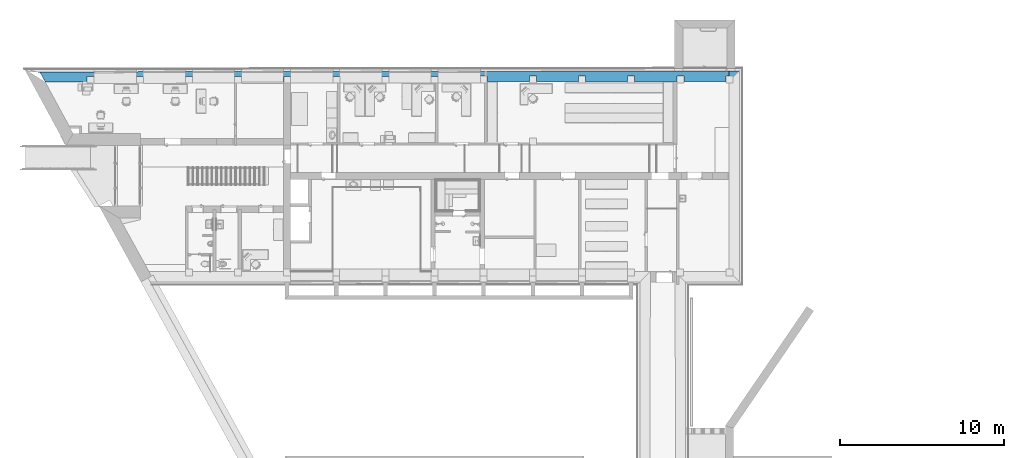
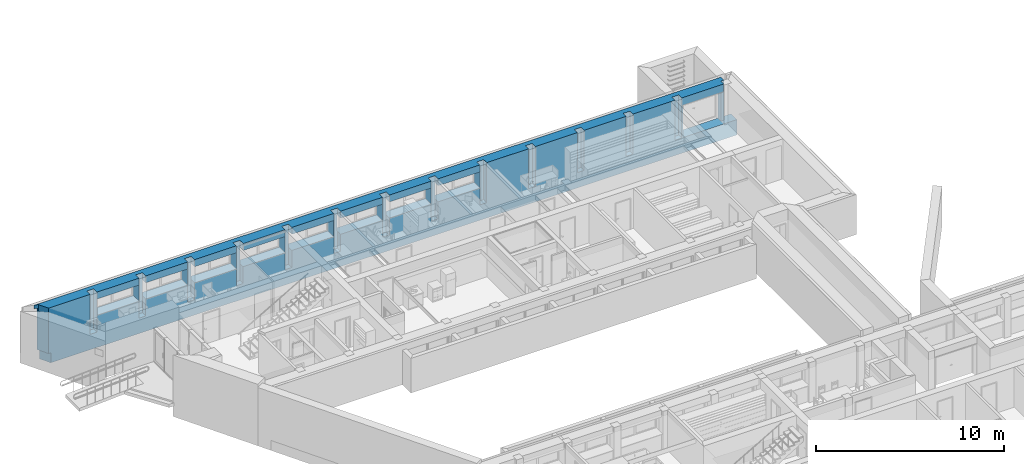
# One storey, part 64 of 127: 1 building element part, 9 openings, 1 element without a shape of its own.
"""IFC2X3 building model written with IfcOpenShell, lengths in millimetres."""

import ifcopenshell
import ifcopenshell.guid

model = None  # the IFC model being written
_history = None  # IfcOwnerHistory: only IFC2X3 demands one
_inside = {}  # id of a spatial element -> (the spatial element, [elements in it])
_under = {}  # id of a project, library or spatial element -> (it, [spatial elements below it])
_declared = {}  # id of a project -> (the project, [libraries it declares])
_typed = {}  # id of a type object -> (the type object, [elements of that type])
_made_of = {}  # id of a material, layer set ... -> (it, [elements and type objects made of it])


def new_model(schema):
    """Start an empty IFC model of exactly this schema.

    Asked for "IFC4X3", IfcOpenShell would pick the latest addendum, in which some entities
    have other attributes; the version numbers below select the first issue.
    IFC2X3 requires an IfcOwnerHistory on every rooted entity: one is made here for all.
    """
    global model, _history
    if schema == "IFC4X3":
        model = ifcopenshell.file(schema_version=(4, 3, 0, 0))
    else:
        model = ifcopenshell.file(schema=schema)
    _inside.clear()
    _under.clear()
    _declared.clear()
    _typed.clear()
    _made_of.clear()
    _history = None
    if model.schema == "IFC2X3":
        org = make("IfcOrganization", Name="unknown")
        user = make(
            "IfcPersonAndOrganization",
            ThePerson=make("IfcPerson", FamilyName="unknown"),
            TheOrganization=org,
        )
        app = make(
            "IfcApplication",
            ApplicationDeveloper=org,
            Version="unknown",
            ApplicationFullName="unknown",
            ApplicationIdentifier="unknown",
        )
        _history = make(
            "IfcOwnerHistory",
            OwningUser=user,
            OwningApplication=app,
            ChangeAction="ADDED",
            CreationDate=0,
        )
    return model


def make(cls, **values):
    """One entity of the class cls with the attributes given. An attribute that is None is left unset."""
    return model.create_entity(
        cls, **{name: value for name, value in values.items() if value is not None}
    )


def entity(cls, *values):
    """Any entity or typed value of the class cls, its attributes in the order of the schema. None: left unset."""
    e = model.create_entity(cls)
    for i, value in enumerate(values):
        if value is not None:
            e[i] = value
    return e


def rooted(cls, **values):
    """An entity with a GlobalId (a new one), such as an element, a storey or a relation."""
    return make(cls, GlobalId=ifcopenshell.guid.new(), OwnerHistory=_history, **values)


def si_unit(unit_type, name, prefix=None):
    """IfcSIUnit, for example si_unit("LENGTHUNIT", "METRE", prefix="MILLI")."""
    return make("IfcSIUnit", UnitType=unit_type, Prefix=prefix, Name=name)


def converted_unit(unit_type, name, factor, base, dimensions=None, offset=None):
    """IfcConversionBasedUnit, such as the inch: factor (a typed value) times the base unit."""
    return make(
        "IfcConversionBasedUnit"
        if offset is None
        else "IfcConversionBasedUnitWithOffset",
        ConversionOffset=offset,
        Dimensions=None
        if dimensions is None
        else entity("IfcDimensionalExponents", *dimensions),
        UnitType=unit_type,
        Name=name,
        ConversionFactor=make(
            "IfcMeasureWithUnit", ValueComponent=factor, UnitComponent=base
        ),
    )


def derived_unit(unit_type, elements):
    """IfcDerivedUnit: a product of units, each with its exponent."""
    return make(
        "IfcDerivedUnit",
        Elements=[
            make("IfcDerivedUnitElement", Unit=unit, Exponent=power)
            for unit, power in elements
        ],
        UnitType=unit_type,
    )


def money_unit(currency):
    """IfcMonetaryUnit."""
    return make("IfcMonetaryUnit", Currency=currency)


def assignment(units):
    """IfcUnitAssignment: the units of a project."""
    return None if units is None else make("IfcUnitAssignment", Units=units)


def point(xyz):
    """IfcCartesianPoint."""
    return None if xyz is None else make("IfcCartesianPoint", Coordinates=xyz)


def direction(xyz):
    """IfcDirection."""
    return None if xyz is None else make("IfcDirection", DirectionRatios=xyz)


def frame(location, z_axis=None, x_axis=None):
    """IfcAxis2Placement3D, a coordinate frame: its origin and axes. An axis left out is left unset."""
    return make(
        "IfcAxis2Placement3D",
        Location=point(location),
        Axis=direction(z_axis),
        RefDirection=direction(x_axis),
    )


def frame_2d(location, x_axis=None):
    """IfcAxis2Placement2D, a coordinate frame in the plane: its origin and x axis."""
    return make(
        "IfcAxis2Placement2D", Location=point(location), RefDirection=direction(x_axis)
    )


def origin_with_axes():
    """The frame at (0, 0, 0) with the z axis (0, 0, 1) and the x axis (1, 0, 0) written out."""
    return frame((0.0, 0.0, 0.0), z_axis=(0.0, 0.0, 1.0), x_axis=(1.0, 0.0, 0.0))


def origin_2d_with_axis():
    """The frame at (0, 0) in the plane with the x axis (1, 0) written out."""
    return frame_2d((0.0, 0.0), x_axis=(1.0, 0.0))


def place(relative_to, where):
    """IfcLocalPlacement: puts the frame where relative to a parent placement (None: the world)."""
    return make(
        "IfcLocalPlacement", PlacementRelTo=relative_to, RelativePlacement=where
    )


def context(
    kind, dimensions, precision=None, world=None, true_north=None, identifier=None
):
    """IfcGeometricRepresentationContext, for example the 3D "Model" context."""
    return make(
        "IfcGeometricRepresentationContext",
        ContextIdentifier=identifier,
        ContextType=kind,
        CoordinateSpaceDimension=dimensions,
        Precision=precision,
        WorldCoordinateSystem=world,
        TrueNorth=true_north,
    )


def subcontext(parent, identifier, kind, view, scale=None):
    """IfcGeometricRepresentationSubContext, for example "Body" below "Model"."""
    return make(
        "IfcGeometricRepresentationSubContext",
        ContextIdentifier=identifier,
        ContextType=kind,
        ParentContext=parent,
        TargetScale=scale,
        TargetView=view,
    )


def project(units=None, contexts=None):
    """IfcProject with its units and contexts."""
    return rooted(
        "IfcProject",
        Name="project",
        RepresentationContexts=contexts,
        UnitsInContext=assignment(units),
    )


def spatial(cls, under=None, at=None, **own):
    """A site, building, storey or space (cls), placed at a placement, below another one or the project."""
    s = rooted(cls, ObjectPlacement=at, **own)
    if under is not None:
        _under.setdefault(under.id(), (under, []))[1].append(s)
    return s


def polyline(points):
    """IfcPolyline through the points."""
    return make("IfcPolyline", Points=[point(p) for p in points])


def profile(cls, at=None, kind="AREA", **sizes):
    """A parametric profile (cls). Its sizes go by their IFC names, for example OverallWidth=200.0."""
    return make(cls, ProfileType=kind, Position=at, **sizes)


def rectangle(**sizes):
    """IfcRectangleProfileDef."""
    return profile("IfcRectangleProfileDef", **sizes)


def outline(outer, holes=None, kind="AREA"):
    """IfcArbitraryClosedProfileDef: a profile drawn as a closed curve; with holes, ...WithVoids."""
    if holes is None:
        return make("IfcArbitraryClosedProfileDef", ProfileType=kind, OuterCurve=outer)
    return make(
        "IfcArbitraryProfileDefWithVoids",
        ProfileType=kind,
        OuterCurve=outer,
        InnerCurves=holes,
    )


def extrude(swept, where, along, depth):
    """IfcExtrudedAreaSolid: the profile swept, set in the frame where, extruded along a direction by depth."""
    return make(
        "IfcExtrudedAreaSolid",
        SweptArea=swept,
        Position=where,
        ExtrudedDirection=direction(along),
        Depth=depth,
    )


def boolean(op, a, b):
    """IfcBooleanResult of two solids."""
    return make("IfcBooleanResult", Operator=op, FirstOperand=a, SecondOperand=b)


def faces_of(points, faces, orient=None, outer=None):
    """IfcFace entities. A face is a list of loops; a loop is a list of indices into points, from 0.

    orient and outer hold one flag for each loop. By default every Orientation is true, the
    first loop of a face is its IfcFaceOuterBound and the others are IfcFaceBound.
    """
    made = []
    for i, loops in enumerate(faces):
        bounds = []
        for j, loop in enumerate(loops):
            is_outer = j == 0 if outer is None else outer[i][j]
            bounds.append(
                make(
                    "IfcFaceOuterBound" if is_outer else "IfcFaceBound",
                    Bound=make("IfcPolyLoop", Polygon=[points[k] for k in loop]),
                    Orientation=True if orient is None else orient[i][j],
                )
            )
        made.append(make("IfcFace", Bounds=bounds))
    return made


def faceted_brep(points, faces, orient=None, outer=None, voids=None):
    """IfcFacetedBrep: a solid bounded by flat faces; with voids (closed shells), ...WithVoids."""
    shared = [point(p) for p in points]
    hull = make("IfcClosedShell", CfsFaces=faces_of(shared, faces, orient, outer))
    if voids is None:
        return make("IfcFacetedBrep", Outer=hull)
    return make(
        "IfcFacetedBrepWithVoids",
        Outer=hull,
        Voids=[
            make(cls, CfsFaces=faces_of(shared, fs, o, b)) for cls, fs, o, b in voids
        ],
    )


def shape(context_of_items, identifier, shape_type, items):
    """IfcShapeRepresentation: the items that make up one representation, for example the "Body"."""
    return make(
        "IfcShapeRepresentation",
        ContextOfItems=context_of_items,
        RepresentationIdentifier=identifier,
        RepresentationType=shape_type,
        Items=items,
    )


def material(Name=None, Category=None):
    """IfcMaterial."""
    return make("IfcMaterial", Name=Name, Category=Category)


def made_of(thing, what):
    """Note that an element or type object is made of a material, layer set ...; save() writes the relation."""
    if what is not None:
        _made_of.setdefault(what.id(), (what, []))[1].append(thing)
    return thing


def type_object(cls, material=None, **own):
    """A type object (cls), such as IfcWallType, which elements share."""
    return made_of(rooted(cls, **own), material)


def element(
    cls,
    number,
    at=None,
    inside=None,
    cuts=None,
    type_object=None,
    material=None,
    context=None,
    identifier="Body",
    shape_type=None,
    held_by="IfcProductDefinitionShape",
    body=None,
    shapes=None,
    **own,
):
    """One element of the class cls, such as IfcWall. Its Tag is "e" and its number.

    at: its placement. inside: the storey or other place that contains it. cuts: it is an
    opening in that element (IfcRelVoidsElement). A single representation is given by context,
    identifier, shape_type and body (its items); several are given by shapes. held_by: the class
    of the entity that holds the representations. save() writes the other relations.
    """
    e = rooted(cls, Tag="e%d" % number, ObjectPlacement=at, **own)
    if body is not None:
        shapes = [shape(context, identifier, shape_type, body)]
    if shapes is not None:
        e.Representation = make(held_by, Representations=shapes)
    if inside is not None:
        _inside.setdefault(inside.id(), (inside, []))[1].append(e)
    if cuts is not None:
        rooted(
            "IfcRelVoidsElement", RelatingBuildingElement=cuts, RelatedOpeningElement=e
        )
    if type_object is not None:
        _typed.setdefault(type_object.id(), (type_object, []))[1].append(e)
    return made_of(e, material)


def aggregate(whole, parts):
    """IfcRelAggregates: a whole, such as a stair, and the parts it consists of."""
    return rooted("IfcRelAggregates", RelatingObject=whole, RelatedObjects=parts)


def save(model, path):
    """Write the relations noted so far, then the file.

    IfcRelAggregates (storeys below a building ...), IfcRelContainedInSpatialStructure (elements
    in a storey), IfcRelDefinesByType, IfcRelAssociatesMaterial and IfcRelDeclares: one each for
    every whole, place, type object, material and project.
    """
    for whole, parts in _under.values():
        aggregate(whole, parts)
    for where, things in _inside.values():
        rooted(
            "IfcRelContainedInSpatialStructure",
            RelatedElements=things,
            RelatingStructure=where,
        )
    for kind, things in _typed.values():
        rooted("IfcRelDefinesByType", RelatedObjects=things, RelatingType=kind)
    for what, things in _made_of.values():
        rooted("IfcRelAssociatesMaterial", RelatedObjects=things, RelatingMaterial=what)
    for by, libraries in _declared.values():
        rooted("IfcRelDeclares", RelatingContext=by, RelatedDefinitions=libraries)
    model.write(path)


model = new_model("IFC2X3")

# Units and contexts
model_context = context("Model", 3, precision=1e-05, world=origin_with_axes(), true_north=direction((0.0, 1.0)))
body_context = subcontext(model_context, "Body", "Model", "MODEL_VIEW")
ifc_project = project(units=[si_unit("LENGTHUNIT", "METRE", prefix="MILLI"), si_unit("AREAUNIT", "SQUARE_METRE"), si_unit("VOLUMEUNIT", "CUBIC_METRE"), converted_unit("PLANEANGLEUNIT", "DEGREE", entity("IfcPlaneAngleMeasure", 0.0174532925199), si_unit("PLANEANGLEUNIT", "RADIAN"), dimensions=[0, 0, 0, 0, 0, 0, 0]), si_unit("SOLIDANGLEUNIT", "STERADIAN"), money_unit("EUR"), converted_unit("TIMEUNIT", "Year", entity("IfcTimeMeasure", 31556926.0), si_unit("TIMEUNIT", "SECOND"), dimensions=[0, 0, 1, 0, 0, 0, 0]), si_unit("MASSUNIT", "GRAM", prefix="KILO"), si_unit("THERMODYNAMICTEMPERATUREUNIT", "DEGREE_CELSIUS"), si_unit("LUMINOUSINTENSITYUNIT", "LUMEN"), si_unit("ENERGYUNIT", "JOULE", prefix="MEGA"), derived_unit("THERMALCONDUCTANCEUNIT", [(si_unit("POWERUNIT", "WATT"), 1), (si_unit("LENGTHUNIT", "METRE"), -1), (si_unit("THERMODYNAMICTEMPERATUREUNIT", "KELVIN"), -1)]), derived_unit("SPECIFICHEATCAPACITYUNIT", [(si_unit("ENERGYUNIT", "JOULE"), 1), (si_unit("MASSUNIT", "GRAM", prefix="KILO"), -1), (si_unit("THERMODYNAMICTEMPERATUREUNIT", "KELVIN"), -1)]), derived_unit("MASSDENSITYUNIT", [(si_unit("MASSUNIT", "GRAM", prefix="KILO"), 1), (si_unit("VOLUMEUNIT", "CUBIC_METRE"), -1)])], contexts=[model_context])

# Site, building, storey
site_placement = place(None, origin_with_axes())
site = spatial("IfcSite", under=ifc_project, at=site_placement, Name="Site", CompositionType="ELEMENT")
building_placement = place(site_placement, origin_with_axes())
building = spatial("IfcBuilding", under=site, at=building_placement, Name="Building", CompositionType="ELEMENT")
storey_placement = place(building_placement, origin_with_axes())
storey = spatial("IfcBuildingStorey", under=building, at=storey_placement, Name="1 KORRUS", CompositionType="ELEMENT", Elevation=0.0)

# Wall, openings, building element part
wall_type = type_object("IfcWallType", Name="VS-2", PredefinedType="NOTDEFINED")
wall_placement = place(storey_placement, frame((-0.195999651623, 71777.5659328, -1000.0), z_axis=(0.0, 0.0, 1.0), x_axis=(0.999999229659, 0.00124124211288, 0.0)))
wall = element("IfcWall", 1, at=wall_placement, inside=storey, type_object=wall_type, Name="VS2 paekivi")
opening_1_placement = place(wall_placement, frame((5451.44506851, 0.0, 2100.0), z_axis=(0.0, 0.0, 1.0), x_axis=(1.0, 0.0, 0.0)))
element("IfcOpeningElement", 2, at=opening_1_placement, cuts=wall, Name="välisaken * Double Window 22", context=body_context, shape_type="SweptSolid", body=[
    extrude(rectangle(XDim=2580.0, YDim=1050.0, at=origin_2d_with_axis()), frame((0.0, 10.0000000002, 525.0), z_axis=(0.0, 1.0, 0.0), x_axis=(1.0, 0.0, 0.0)), (0.0, 0.0, -1.0), 1460.0),
    extrude(rectangle(XDim=2580.0, YDim=1050.0, at=origin_2d_with_axis()), frame((0.0, 9.99999999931, 525.0), z_axis=(0.0, -1.0, 0.0), x_axis=(1.0, 0.0, 0.0)), (0.0, 0.0, -1.0), 1000.0),
])
opening_2_placement = place(wall_placement, frame((8451.2826352, 0.0, 2100.0), z_axis=(0.0, 0.0, 1.0), x_axis=(1.0, 0.0, 0.0)))
element("IfcOpeningElement", 3, at=opening_2_placement, cuts=wall, Name="välisaken * Double Window 22", context=body_context, shape_type="SweptSolid", body=[
    extrude(rectangle(XDim=2580.0, YDim=1050.0, at=origin_2d_with_axis()), frame((0.0, 10.0000000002, 525.0), z_axis=(0.0, 1.0, 0.0), x_axis=(1.0, 0.0, 0.0)), (0.0, 0.0, -1.0), 1460.0),
    extrude(rectangle(XDim=2580.0, YDim=1050.0, at=origin_2d_with_axis()), frame((0.0, 9.99999999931, 525.0), z_axis=(0.0, -1.0, 0.0), x_axis=(1.0, 0.0, 0.0)), (0.0, 0.0, -1.0), 1000.0),
])
opening_3_placement = place(wall_placement, frame((11449.5314844, 0.0, 2100.0), z_axis=(0.0, 0.0, 1.0), x_axis=(1.0, 0.0, 0.0)))
element("IfcOpeningElement", 4, at=opening_3_placement, cuts=wall, Name="välisaken * Double Window 22", context=body_context, shape_type="SweptSolid", body=[
    extrude(rectangle(XDim=2580.0, YDim=1050.0, at=origin_2d_with_axis()), frame((0.0, 10.0000000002, 525.0), z_axis=(0.0, 1.0, 0.0), x_axis=(1.0, 0.0, 0.0)), (0.0, 0.0, -1.0), 1460.0),
    extrude(rectangle(XDim=2580.0, YDim=1050.0, at=origin_2d_with_axis()), frame((1.13686837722e-10, 9.99999999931, 525.0), z_axis=(0.0, -1.0, 0.0), x_axis=(1.0, 0.0, 0.0)), (0.0, 0.0, -1.0), 1000.0),
])
opening_4_placement = place(wall_placement, frame((14446.3955727, 0.0, 2100.0), z_axis=(0.0, 0.0, 1.0), x_axis=(1.0, 0.0, 0.0)))
element("IfcOpeningElement", 5, at=opening_4_placement, cuts=wall, Name="välisaken * Double Window 22", context=body_context, shape_type="SweptSolid", body=[
    extrude(rectangle(XDim=2580.0, YDim=1050.0, at=origin_2d_with_axis()), frame((-1.13686837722e-10, 10.0000000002, 525.0), z_axis=(0.0, 1.0, 0.0), x_axis=(1.0, 0.0, 0.0)), (0.0, 0.0, -1.0), 1460.0),
    extrude(rectangle(XDim=2580.0, YDim=1050.0, at=origin_2d_with_axis()), frame((-1.13686837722e-10, 9.99999999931, 525.0), z_axis=(0.0, -1.0, 0.0), x_axis=(1.0, 0.0, 0.0)), (0.0, 0.0, -1.0), 1000.0),
])
opening_5_placement = place(wall_placement, frame((17443.1382835, 0.0, 2100.0), z_axis=(0.0, 0.0, 1.0), x_axis=(1.0, 0.0, 0.0)))
element("IfcOpeningElement", 6, at=opening_5_placement, cuts=wall, Name="välisaken * Double Window 22", context=body_context, shape_type="SweptSolid", body=[
    extrude(rectangle(XDim=2580.0, YDim=1050.0, at=origin_2d_with_axis()), frame((0.0, 10.0000000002, 525.0), z_axis=(0.0, 1.0, 0.0), x_axis=(1.0, 0.0, 0.0)), (0.0, 0.0, -1.0), 1460.0),
    extrude(rectangle(XDim=2580.0, YDim=1050.0, at=origin_2d_with_axis()), frame((0.0, 9.99999999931, 525.0), z_axis=(0.0, -1.0, 0.0), x_axis=(1.0, 0.0, 0.0)), (0.0, 0.0, -1.0), 1000.0),
])
opening_6_placement = place(wall_placement, frame((20440.0452109, 0.0, 2100.0), z_axis=(0.0, 0.0, 1.0), x_axis=(1.0, 0.0, 0.0)))
element("IfcOpeningElement", 7, at=opening_6_placement, cuts=wall, Name="välisaken * Double Window 22", context=body_context, shape_type="SweptSolid", body=[
    extrude(rectangle(XDim=2580.0, YDim=1050.0, at=origin_2d_with_axis()), frame((0.0, 10.0000000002, 525.0), z_axis=(0.0, 1.0, 0.0), x_axis=(1.0, 0.0, 0.0)), (0.0, 0.0, -1.0), 1460.0),
    extrude(rectangle(XDim=2580.0, YDim=1050.0, at=origin_2d_with_axis()), frame((0.0, 9.99999999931, 525.0), z_axis=(0.0, -1.0, 0.0), x_axis=(1.0, 0.0, 0.0)), (0.0, 0.0, -1.0), 1000.0),
])
opening_7_placement = place(wall_placement, frame((23448.1423437, -9.09494701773e-10, 2100.0), z_axis=(0.0, 0.0, 1.0), x_axis=(1.0, 0.0, 0.0)))
element("IfcOpeningElement", 8, at=opening_7_placement, cuts=wall, Name="välisaken * Double Window 22", context=body_context, shape_type="SweptSolid", body=[
    extrude(rectangle(XDim=2580.0, YDim=1050.0, at=origin_2d_with_axis()), frame((-1.13686837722e-10, 10.0000000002, 525.0), z_axis=(0.0, 1.0, 0.0), x_axis=(1.0, 0.0, 0.0)), (0.0, 0.0, -1.0), 1460.0),
    extrude(rectangle(XDim=2580.0, YDim=1050.0, at=origin_2d_with_axis()), frame((1.13686837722e-10, 9.99999999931, 525.0), z_axis=(0.0, -1.0, 0.0), x_axis=(1.0, 0.0, 0.0)), (0.0, 0.0, -1.0), 1000.0),
])
opening_8_placement = place(wall_placement, frame((26449.4719784, -9.09494701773e-10, 2100.0), z_axis=(0.0, 0.0, 1.0), x_axis=(1.0, 0.0, 0.0)))
element("IfcOpeningElement", 9, at=opening_8_placement, cuts=wall, Name="välisaken * Double Window 22", context=body_context, shape_type="SweptSolid", body=[
    extrude(rectangle(XDim=2580.0, YDim=1050.0, at=origin_2d_with_axis()), frame((0.0, 9.99999999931, 525.0), z_axis=(0.0, 1.0, 0.0), x_axis=(1.0, 0.0, 0.0)), (0.0, 0.0, -1.0), 1460.0),
    extrude(rectangle(XDim=2580.0, YDim=1050.0, at=origin_2d_with_axis()), frame((0.0, 9.99999999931, 525.0), z_axis=(0.0, -1.0, 0.0), x_axis=(1.0, 0.0, 0.0)), (0.0, 0.0, -1.0), 1000.0),
])
opening_9_placement = place(wall_placement, frame((41506.6155205, 0.0, 1000.0), z_axis=(0.0, 0.0, 1.0), x_axis=(1.0, 0.0, 0.0)))
element("IfcOpeningElement", 10, at=opening_9_placement, cuts=wall, Name="Välisuks * Double Door 22", context=body_context, shape_type="SweptSolid", body=[
    extrude(rectangle(XDim=2500.0, YDim=2100.0, at=origin_2d_with_axis()), frame((1.13686837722e-10, -820.000000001, 1050.0), z_axis=(0.0, -1.0, 0.0), x_axis=(-1.0, 0.0, 0.0)), (0.0, 0.0, -1.0), 2560.0),
    extrude(rectangle(XDim=2574.0, YDim=2137.0, at=origin_2d_with_axis()), frame((0.0, -630.0, 1068.5), z_axis=(0.0, -1.0, 0.0), x_axis=(-1.0, 0.0, 0.0)), (0.0, 0.0, 1.0), 920.000000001),
    extrude(rectangle(XDim=2574.0, YDim=2137.0, at=origin_2d_with_axis()), frame((0.0, 190.000000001, 1068.5), z_axis=(0.0, 1.0, 0.0), x_axis=(-1.0, 0.0, 0.0)), (0.0, 0.0, 1.0), 920.000000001),
])
ifc_material = material(Name="Kivi - Ol.Olev Konstruktsioon")
building_element_part_placement = place(wall_placement, origin_with_axes())
solid_1 = boolean("DIFFERENCE", boolean("DIFFERENCE", boolean("DIFFERENCE", boolean("DIFFERENCE", boolean("DIFFERENCE", boolean("DIFFERENCE", boolean("DIFFERENCE", boolean("DIFFERENCE", extrude(outline(polyline([(-102.840454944, -630.0), (43738.1831564, -630.0), (43738.1831564, 0.0), (-102.840454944, 0.0), (-102.840454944, -630.0)])), origin_with_axes(), (0.0, 0.0, 1.0), 3600.00000298), faceted_brep([(1185.52869512, -630.000000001, 3167.85512503), (1185.52869512, -630.000000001, 3600.00000289), (-102.840454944, -630.000000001, 3600.00000298), (-102.840454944, -630.000000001, 0.0), (1318.8927051, -630.0, 0.0), (1318.8927051, -630.0, 650.0), (1182.44218317, -630.000000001, 650.0), (1182.44218317, -630.000000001, 3167.85512503), (877.435406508, -59.7821776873, 3600.0), (877.435406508, -59.7821776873, 3167.85512503), (657.323547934, 0.0, 3600.00000293), (-102.840454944, 0.0, 3600.00000298), (-102.840454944, 0.0, 0.0), (977.895407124, 0.0, 0.0), (977.895407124, 0.0, 650.0), (841.444885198, 0.0, 650.0), (841.444885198, 0.0, 3363.55570923), (873.17688523, -58.625567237, 3363.55570923), (873.17688523, -58.625567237, 3167.85512503), (657.323547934, 0.0, 3363.55570923)], [[[0, 1, 2, 3, 4, 5, 6, 7]], [[8, 1, 0, 9]], [[8, 10, 11, 2, 1]], [[11, 12, 3, 2]], [[13, 4, 3, 12]], [[5, 4, 13, 14]], [[6, 5, 14, 15]], [[7, 6, 15, 16, 17, 18]], [[0, 7, 18, 9]], [[10, 8, 9, 18, 17, 19]], [[14, 13, 12, 11, 10, 19, 16, 15]], [[16, 19, 17]]])), faceted_brep([(3740.42454351, -274.769073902, 3600.0), (3739.98361559, -630.000000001, 3600.0), (4159.98393913, -630.000000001, 3600.0), (4160.42421997, -275.29039559, 3600.0), (3740.42454351, -274.769073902, 1000.0), (3739.98361559, -630.000000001, 1000.0), (4159.98393913, -630.000000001, 1000.0), (4160.42421997, -275.29039559, 1000.0)], [[[0, 1, 2, 3]], [[1, 0, 4, 5]], [[6, 2, 1, 5]], [[3, 2, 6, 7]], [[0, 3, 7, 4]], [[6, 5, 4, 7]]])), faceted_brep([(6741.9663902, -278.494716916, 3600.0), (6741.5300867, -630.0, 3600.0), (7161.53041025, -630.000000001, 3600.0), (7161.96606666, -279.016038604, 3600.0), (6741.9663902, -278.494716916, 1000.0), (6741.5300867, -630.0, 1000.0), (7161.53041025, -630.000000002, 1000.0), (7161.96606666, -279.016038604, 1000.0)], [[[0, 1, 2, 3]], [[1, 0, 4, 5]], [[6, 2, 1, 5]], [[3, 2, 6, 7]], [[0, 3, 7, 4]], [[6, 5, 4, 7]]])), faceted_brep([(9741.80395689, -280.21836493, 3600.0), (9741.36979286, -630.000000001, 3600.0), (10161.3701164, -630.000000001, 3600.0), (10161.8036333, -280.739686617, 3600.0), (9741.80395689, -280.21836493, 1000.0), (9741.36979286, -630.000000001, 1000.0), (10161.3701164, -630.000000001, 1000.0), (10161.8036333, -280.739686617, 1000.0)], [[[0, 1, 2, 3]], [[1, 0, 4, 5]], [[6, 2, 1, 5]], [[3, 2, 6, 7]], [[0, 3, 7, 4]], [[6, 5, 4, 7]]])), faceted_brep([(12741.6403764, -286.648532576, 3600.0), (12741.2141938, -630.000000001, 3600.0), (13161.2145173, -630.000000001, 3600.0), (13161.6400529, -287.169854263, 3600.0), (12741.6403764, -286.648532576, 1000.0), (12741.2141938, -630.000000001, 1000.0), (13161.2145173, -630.000000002, 1000.0), (13161.6400529, -287.169854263, 1000.0)], [[[0, 1, 2, 3]], [[1, 0, 4, 5]], [[6, 2, 1, 5]], [[3, 2, 6, 7]], [[0, 3, 7, 4]], [[6, 5, 4, 7]]])), faceted_brep([(15741.7164354, -288.757165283, 3600.0), (15741.2928701, -630.000000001, 3600.0), (16161.2931937, -630.000000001, 3600.0), (16161.7161119, -289.27848697, 3600.0), (15741.7164354, -288.757165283, 1000.0), (15741.2928701, -630.000000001, 1000.0), (16161.2931937, -630.000000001, 1000.0), (16161.7161119, -289.27848697, 1000.0)], [[[0, 1, 2, 3]], [[1, 0, 4, 5]], [[6, 2, 1, 5]], [[3, 2, 6, 7]], [[0, 3, 7, 4]], [[6, 5, 4, 7]]])), faceted_brep([(18741.5002726, -291.997280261, 3600.0), (18741.0807291, -630.000000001, 3600.0), (19161.0810526, -630.000000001, 3600.0), (19161.4999491, -292.518601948, 3600.0), (18741.5002726, -291.997280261, 1000.0), (18741.0807291, -630.000000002, 1000.0), (19161.0810526, -630.000000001, 1000.0), (19161.4999491, -292.518601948, 1000.0)], [[[0, 1, 2, 3]], [[1, 0, 4, 5]], [[6, 2, 1, 5]], [[3, 2, 6, 7]], [[0, 3, 7, 4]], [[6, 5, 4, 7]]])), faceted_brep([(21740.3620403, -296.287362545, 3600.0), (21739.9478218, -630.000000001, 3600.0), (22159.9481453, -630.0, 3600.0), (22160.3617168, -296.808684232, 3600.0), (21740.3620403, -296.287362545, 1000.0), (21739.9478218, -630.000000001, 1000.0), (22159.9481453, -630.000000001, 1000.0), (22160.3617168, -296.808684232, 1000.0)], [[[0, 1, 2, 3]], [[1, 0, 4, 5]], [[6, 2, 1, 5]], [[3, 2, 6, 7]], [[0, 3, 7, 4]], [[6, 5, 4, 7]]]))
solid_2 = boolean("DIFFERENCE", boolean("DIFFERENCE", boolean("DIFFERENCE", boolean("DIFFERENCE", boolean("DIFFERENCE", boolean("DIFFERENCE", boolean("DIFFERENCE", boolean("DIFFERENCE", solid_1, faceted_brep([(24741.4903972, -299.331511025, 3600.0), (24741.0799572, -630.000000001, 3600.0), (25161.0802808, -630.0, 3600.0), (25161.4900737, -299.852832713, 3600.0), (24741.4903972, -299.331511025, 1000.0), (24741.0799572, -630.000000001, 1000.0), (25161.0802808, -630.0, 1000.0), (25161.4900737, -299.852832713, 1000.0)], [[[0, 1, 2, 3]], [[1, 0, 4, 5]], [[6, 2, 1, 5]], [[3, 2, 6, 7]], [[0, 3, 7, 4]], [[6, 5, 4, 7]]])), faceted_brep([(27739.9933001, -299.625023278, 3600.0), (27739.5832244, -630.000000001, 3600.0), (28159.583548, -630.000000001, 3600.0), (28159.9929765, -300.146344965, 3600.0), (27739.9933001, -299.625023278, 1000.0), (27739.5832244, -630.000000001, 1000.0), (28159.583548, -630.000000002, 1000.0), (28159.9929765, -300.146344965, 1000.0)], [[[0, 1, 2, 3]], [[1, 0, 4, 5]], [[6, 2, 1, 5]], [[3, 2, 6, 7]], [[0, 3, 7, 4]], [[6, 5, 4, 7]]])), faceted_brep([(30739.9934534, -303.348752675, 3600.0), (30739.5879998, -630.000000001, 3600.0), (31159.5883233, -630.000000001, 3600.0), (31159.9931298, -303.870074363, 3600.0), (30739.9934534, -303.348752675, 1000.0), (30739.5879998, -630.000000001, 1000.0), (31159.5883233, -630.000000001, 1000.0), (31159.9931298, -303.870074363, 1000.0)], [[[0, 1, 2, 3]], [[1, 0, 4, 5]], [[6, 2, 1, 5]], [[3, 2, 6, 7]], [[0, 3, 7, 4]], [[6, 5, 4, 7]]])), faceted_brep([(33739.9100805, -307.072378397, 3600.0), (33739.5092488, -630.000000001, 3600.0), (34159.5095723, -630.000000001, 3600.0), (34159.9097569, -307.593700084, 3600.0), (33739.9100805, -307.072378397, 1000.0), (33739.5092488, -630.000000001, 1000.0), (34159.5095723, -630.000000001, 1000.0), (34159.9097569, -307.593700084, 1000.0)], [[[0, 1, 2, 3]], [[1, 0, 4, 5]], [[6, 2, 1, 5]], [[3, 2, 6, 7]], [[0, 3, 7, 4]], [[6, 5, 4, 7]]])), faceted_brep([(36739.8265984, -310.796003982, 3600.0), (36739.4303887, -630.000000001, 3600.0), (37159.4307122, -630.000000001, 3600.0), (37159.8262749, -311.31732567, 3600.0), (36739.8265984, -310.796003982, 1000.0), (36739.4303887, -630.000000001, 1000.0), (37159.4307122, -630.000000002, 1000.0), (37159.8262749, -311.31732567, 1000.0)], [[[0, 1, 2, 3]], [[1, 0, 4, 5]], [[6, 2, 1, 5]], [[3, 2, 6, 7]], [[0, 3, 7, 4]], [[6, 5, 4, 7]]])), faceted_brep([(39740.5976359, -314.520562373, 3600.0), (39740.2060492, -630.0, 3600.0), (40160.2063728, -630.0, 3600.0), (40160.5973123, -315.041884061, 3600.0), (39740.5976359, -314.520562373, 1000.0), (39740.2060492, -630.000000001, 1000.0), (40160.2063728, -630.0, 1000.0), (40160.5973123, -315.041884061, 1000.0)], [[[0, 1, 2, 3]], [[1, 0, 4, 5]], [[6, 2, 1, 5]], [[3, 2, 6, 7]], [[0, 3, 7, 4]], [[6, 5, 4, 7]]])), faceted_brep([(42742.620226, -630.0, 3600.0), (42742.620226, -630.000000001, 1000.0), (43567.9477789, -630.0, 1000.0), (43567.9477789, -630.0, 0.0), (43738.1831564, -630.0, 0.0), (43738.1831564, -630.0, 3600.00000298), (42743.0071869, -318.24727948, 3600.0), (42743.0071869, -318.24727948, 1000.0), (42937.5529611, -318.488758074, 1000.0), (42937.947296, -9.09494701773e-10, 1000.0), (43567.9477789, 0.0, 1000.0), (43567.9477789, 0.0, 0.0), (43738.1831564, 0.0, 0.0), (43738.1831564, 0.0, 3600.00000298), (42937.947296, 0.0, 3600.0), (42937.5529611, -318.488758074, 3600.0)], [[[0, 1, 2, 3, 4, 5]], [[0, 6, 7, 1]], [[2, 1, 7, 8, 9, 10]], [[3, 2, 10, 11]], [[3, 11, 12, 4]], [[5, 4, 12, 13]], [[6, 0, 5, 13, 14, 15]], [[6, 15, 8, 7]], [[15, 14, 9, 8]], [[9, 14, 13, 12, 11, 10]]])), faceted_brep([(657.323547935, -9.09494701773e-10, 3167.85512503), (657.323547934, 0.0, 3600.00000293), (-102.840454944, 0.0, 3600.00000298), (-102.840454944, 0.0, 0.0), (977.895407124, 0.0, 0.0), (977.895407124, 0.0, 650.0), (2.04636307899e-09, 0.0, 650.0), (0.0, 0.0, 3167.85512503), (68.2199265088, 160.0, 3600.00000297), (68.2199265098, 160.0, 3167.85512503), (-102.840454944, 159.999999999, 3600.00000298), (-102.840454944, 159.999999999, 0.0), (891.29291875, 159.999999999, 0.0), (891.29291875, 159.999999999, 650.0), (-86.6024883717, 159.999999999, 650.0), (-86.6024883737, 159.999999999, 3167.85512503)], [[[0, 1, 2, 3, 4, 5, 6, 7]], [[8, 1, 0, 9]], [[1, 8, 10, 2]], [[10, 11, 3, 2]], [[12, 4, 3, 11]], [[4, 12, 13, 5]], [[6, 5, 13, 14]], [[7, 6, 14, 15]], [[0, 7, 15, 9]], [[13, 12, 11, 10, 8, 9, 15, 14]]]))
solid_3 = boolean("DIFFERENCE", boolean("DIFFERENCE", boolean("DIFFERENCE", boolean("DIFFERENCE", boolean("DIFFERENCE", boolean("DIFFERENCE", boolean("DIFFERENCE", boolean("DIFFERENCE", solid_2, faceted_brep([(3884.06051778, 159.999999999, 2100.0), (3884.06051778, 159.999999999, 3150.0), (28106.8498502, 160.0, 3150.0), (28106.8498502, 160.0, 2100.0), (3884.02333769, 130.046079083, 2100.0), (3884.02333769, 130.046079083, 3150.0), (28106.7753505, 99.9797560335, 3150.0), (28106.7753505, 99.9797560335, 2100.0)], [[[0, 1, 2, 3]], [[1, 0, 4, 5]], [[2, 1, 5, 6]], [[3, 2, 6, 7]], [[0, 3, 7, 4]], [[4, 7, 6, 5]]])), faceted_brep([(39603.2008308, 0.0, 1000.0), (40103.2008308, -9.09494701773e-10, 1000.0), (40103.2008308, 0.0, 3600.0000002), (39603.2008308, 9.09494701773e-10, 3600.00000023), (39603.2008308, 159.999999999, 1000.0), (40103.2008308, 160.0, 1000.0), (40103.2008308, 160.000000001, 3600.0), (39603.2008308, 160.0, 3600.0)], [[[0, 1, 2, 3]], [[1, 0, 4, 5]], [[6, 2, 1, 5]], [[7, 3, 2, 6]], [[0, 3, 7, 4]], [[4, 7, 6, 5]]])), faceted_brep([(42790.8627419, 160.0, 3600.0), (42790.664143, 0.0, 3600.00000001), (43290.6645282, 0.0, 3600.0), (43290.8631271, 160.0, 3600.0), (42790.8627419, 159.999999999, 1000.0), (42790.664143, -9.09494701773e-10, 1000.0), (43290.6645282, -9.09494701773e-10, 1000.0), (43290.8631271, 159.999999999, 1000.0)], [[[0, 1, 2, 3]], [[1, 0, 4, 5]], [[6, 2, 1, 5]], [[3, 2, 6, 7]], [[4, 0, 3, 7]], [[5, 4, 7, 6]]])), faceted_brep([(43567.9477789, 160.0, 1000.0), (43568.1458818, 160.0, 1000.0), (43568.1458818, 160.000000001, 3600.0), (43738.1831564, 159.999999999, 3600.00000298), (43738.1831564, 159.999999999, 0.0), (43567.9477789, 160.0, 0.0), (43567.9477789, 0.0, 1000.0), (43567.9477789, 9.09494701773e-10, 3600.0), (43738.1831564, 0.0, 3600.00000298), (43738.1831564, 0.0, 0.0), (43567.9477789, 0.0, 0.0)], [[[0, 1, 2, 3, 4, 5]], [[1, 0, 6]], [[7, 2, 1, 6]], [[2, 7, 8, 3]], [[8, 9, 4, 3]], [[10, 5, 4, 9]], [[10, 6, 0, 5]], [[6, 10, 9, 8, 7]]])), faceted_brep([(-102.840454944, 159.999999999, 3600.00000298), (-102.840454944, 159.999999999, 0.0), (891.29291875, 159.999999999, 0.0), (891.29291875, 159.999999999, 650.0), (-86.6024883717, 159.999999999, 650.0), (-86.6024883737, 159.999999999, 3167.85512503), (68.2199265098, 160.0, 3167.85512503), (68.2199265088, 160.0, 3600.00000297), (-102.840454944, 190.000000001, 0.0), (-102.840454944, 190.000000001, 3600.00000298), (-102.840454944, 190.0, 3167.85512503), (-102.840454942, 190.000000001, 650.0), (875.054952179, 190.000000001, 0.0), (875.05495218, 190.0, 650.0), (-42.2370025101, 190.0, 3167.85512503), (1.13686837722e-10, 178.528469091, 3363.55570923), (1.13686837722e-10, 178.528469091, 3600.00000298), (-42.2370025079, 190.0, 3363.55570923), (1.13686837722e-10, 189.999999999, 3600.00000298), (1.13686837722e-10, 189.999999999, 3363.55570923)], [[[0, 1, 2, 3, 4, 5, 6, 7]], [[8, 1, 0, 9, 10, 11]], [[1, 8, 12, 2]], [[3, 2, 12, 13]], [[11, 4, 3, 13]], [[5, 4, 11, 10]], [[5, 10, 14, 6]], [[15, 16, 7, 6, 14, 17]], [[9, 0, 7, 16, 18]], [[14, 10, 9, 18, 19, 17]], [[8, 11, 13, 12]], [[16, 15, 19, 18]], [[15, 17, 19]]])), faceted_brep([(3884.09775508, 190.0, 3150.0), (3884.09775508, 190.0, 2100.0), (3884.06051778, 160.0, 2100.0), (3884.06051778, 160.0, 3150.0), (28106.8870875, 190.0, 3150.0), (28106.8870875, 190.0, 2100.0), (28106.8498502, 160.0, 2100.0), (28106.8498502, 160.0, 3150.0)], [[[0, 1, 2, 3]], [[1, 0, 4, 5]], [[2, 1, 5, 6]], [[3, 2, 6, 7]], [[0, 3, 7, 4]], [[7, 6, 5, 4]]])), faceted_brep([(39603.2008308, 160.0, 3600.0), (39603.2008308, 159.999999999, 1000.0), (40103.2008308, 160.0, 1000.0), (40103.2008308, 160.000000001, 3600.0), (39603.2008308, 190.0, 3600.0), (39603.2008308, 189.999999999, 1000.0), (40103.2008308, 190.0, 1000.0), (40103.2008308, 190.000000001, 3600.0)], [[[0, 1, 2, 3]], [[1, 0, 4, 5]], [[2, 1, 5, 6]], [[3, 2, 6, 7]], [[0, 3, 7, 4]], [[5, 4, 7, 6]]])), faceted_brep([(42790.8627419, 160.0, 3600.0), (42790.8627419, 159.999999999, 1000.0), (43290.8631271, 159.999999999, 1000.0), (43290.8631271, 160.0, 3600.0), (42790.8999792, 190.0, 3600.0), (42790.8999792, 190.0, 1000.0), (43290.9003643, 189.999999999, 1000.0), (43290.9003643, 189.999999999, 3600.0)], [[[0, 1, 2, 3]], [[0, 4, 5, 1]], [[2, 1, 5, 6]], [[3, 2, 6, 7]], [[4, 0, 3, 7]], [[6, 5, 4, 7]]]))
building_element_part = element("IfcBuildingElementPart", 11, at=building_element_part_placement, material=ifc_material, Name="Kivi - Ol.Olev Konstruktsioon", context=body_context, shape_type="CSG", body=[
    boolean("DIFFERENCE", solid_3, faceted_brep([(43567.9477789, 160.0, 1000.0), (43567.9477789, 160.0, 0.0), (43738.1831564, 159.999999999, 0.0), (43738.1831564, 159.999999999, 3600.00000298), (43738.14603, 160.0, 3600.0), (43738.14603, 160.0, 1000.0), (43568.1458818, 160.0, 1000.0), (43567.9477789, 190.0, 1000.0), (43567.9477789, 190.0, 0.0), (43738.1831564, 189.999999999, 0.0), (43738.1831743, 190.0, 1000.0), (43738.1831564, 189.985577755, 1000.0), (43738.1831564, 189.985577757, 3600.0)], [[[0, 1, 2, 3, 4, 5, 6]], [[1, 0, 7, 8]], [[2, 1, 8, 9]], [[3, 2, 9, 10, 11, 12]], [[4, 3, 12]], [[5, 4, 12, 11]], [[0, 6, 5, 11, 10, 7]], [[8, 7, 10, 9]]])),
])
aggregate(wall, [building_element_part])

save(model, "model.ifc")
